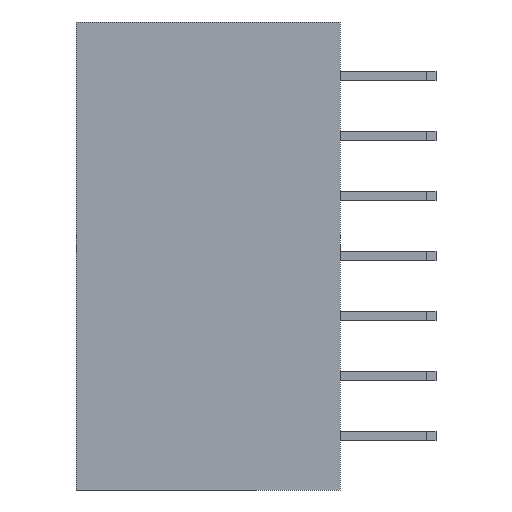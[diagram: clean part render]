
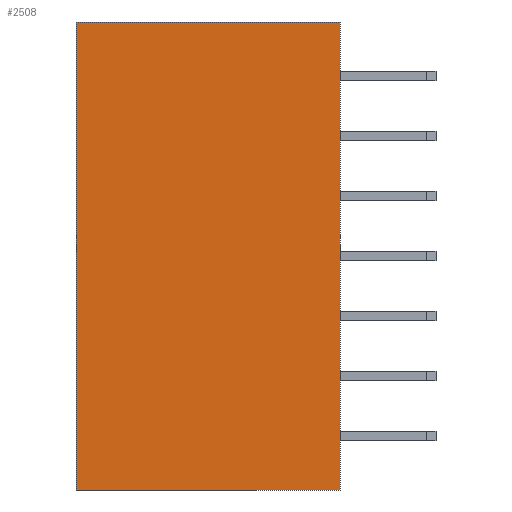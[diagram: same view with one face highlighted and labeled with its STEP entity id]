
A CAD part, left-side view. The second image highlights one B-rep face of the part: STEP entity #2508.
In plain terms, the highlighted planar face has unit normal (-1, 0, 0).
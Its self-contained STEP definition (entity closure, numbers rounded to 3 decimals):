
#16 = EDGE_LOOP ( 'NONE', ( #403, #397, #405, #420 ) ) ;
#139 = VERTEX_POINT ( 'NONE', #699 ) ;
#142 = VERTEX_POINT ( 'NONE', #702 ) ;
#233 = VERTEX_POINT ( 'NONE', #793 ) ;
#234 = VERTEX_POINT ( 'NONE', #794 ) ;
#397 = ORIENTED_EDGE ( 'NONE', *, *, #2348, .F. ) ;
#403 = ORIENTED_EDGE ( 'NONE', *, *, #2323, .T. ) ;
#405 = ORIENTED_EDGE ( 'NONE', *, *, #2357, .F. ) ;
#420 = ORIENTED_EDGE ( 'NONE', *, *, #2350, .T. ) ;
#699 = CARTESIAN_POINT ( 'NONE',  ( -15.35, 0., -9.75 ) ) ;
#702 = CARTESIAN_POINT ( 'NONE',  ( -15.35, 0., 9.75 ) ) ;
#793 = CARTESIAN_POINT ( 'NONE',  ( -15.35, 11., -9.75 ) ) ;
#794 = CARTESIAN_POINT ( 'NONE',  ( -15.35, 11., 9.75 ) ) ;
#988 = LINE ( 'NONE', #989, #2205 ) ;
#989 = CARTESIAN_POINT ( 'NONE',  ( -15.35, 0., 9.75 ) ) ;
#990 = DIRECTION ( 'NONE',  ( 0., 0., 1. ) ) ;
#1063 = LINE ( 'NONE', #1064, #1932 ) ;
#1064 = CARTESIAN_POINT ( 'NONE',  ( -15.35, 11., 9.75 ) ) ;
#1065 = DIRECTION ( 'NONE',  ( 0., -1., 0. ) ) ;
#1069 = LINE ( 'NONE', #1070, #1934 ) ;
#1070 = CARTESIAN_POINT ( 'NONE',  ( -15.35, 11., -9.75 ) ) ;
#1071 = DIRECTION ( 'NONE',  ( 0., -1., 0. ) ) ;
#1090 = LINE ( 'NONE', #1091, #1941 ) ;
#1091 = CARTESIAN_POINT ( 'NONE',  ( -15.35, 11., 9.75 ) ) ;
#1092 = DIRECTION ( 'NONE',  ( 0., 0., 1. ) ) ;
#1602 = PLANE ( 'NONE',  #1886 ) ;
#1603 = CARTESIAN_POINT ( 'NONE',  ( -15.35, 11., 9.75 ) ) ;
#1604 = DIRECTION ( 'NONE',  ( 1., 0., 0. ) ) ;
#1605 = DIRECTION ( 'NONE',  ( 0., 0., -1. ) ) ;
#1883 = FACE_OUTER_BOUND ( 'NONE', #16, .T. ) ;
#1886 = AXIS2_PLACEMENT_3D ( 'NONE', #1603, #1604, #1605 ) ;
#1932 = VECTOR ( 'NONE', #1065, 1000. ) ;
#1934 = VECTOR ( 'NONE', #1071, 1000. ) ;
#1941 = VECTOR ( 'NONE', #1092, 1000. ) ;
#2205 = VECTOR ( 'NONE', #990, 1000. ) ;
#2323 = EDGE_CURVE ( 'NONE', #139, #142, #988, .T. ) ;
#2348 = EDGE_CURVE ( 'NONE', #234, #142, #1063, .T. ) ;
#2350 = EDGE_CURVE ( 'NONE', #233, #139, #1069, .T. ) ;
#2357 = EDGE_CURVE ( 'NONE', #233, #234, #1090, .T. ) ;
#2508 = ADVANCED_FACE ( 'NONE', ( #1883 ), #1602, .F. ) ;
